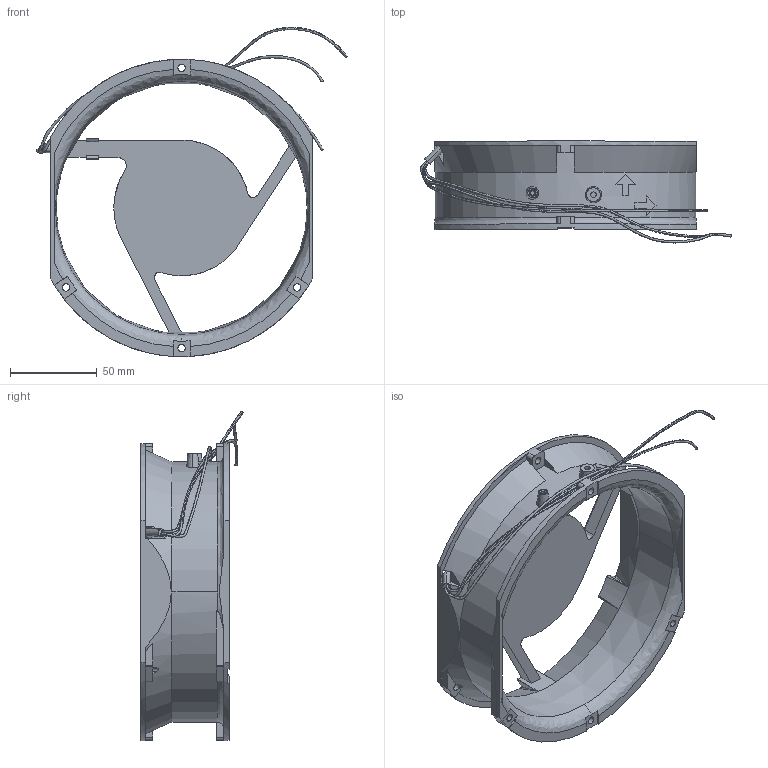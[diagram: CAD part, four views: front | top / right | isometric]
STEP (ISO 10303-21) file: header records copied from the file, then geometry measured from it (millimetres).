
FILE_DESCRIPTION (( 'STEP AP214' ), '1' );
FILE_NAME ('D17C_casing (p.c.).STEP', '2019-05-09T12:10:34', ( 'ced' ), ( 'Hewlett-Packard Company' ), 'SwSTEP 2.0', 'SolidWorks 2017', '' );
FILE_SCHEMA (( 'AUTOMOTIVE_DESIGN' ));
Length unit declared in the file: millimetre
Products named in the file (1): D17C_casing (p.c.)
Bounding box: 179.7 x 58.97 x 190.32 mm (x, y, z)
Volume: 132443.5 mm3; surface area: 84916.1 mm2
Topology: 4 solids, 4 shells, 267 faces, 770 edges, 486 vertices
Faces by surface type: plane 124, bspline 67, cylinder 56, cone 20
Entity records: 15804 total; most frequent: CARTESIAN_POINT 9865, ORIENTED_EDGE 1490, DIRECTION 849, EDGE_CURVE 745, VERTEX_POINT 486, B_SPLINE_CURVE_WITH_KNOTS 336, AXIS2_PLACEMENT_3D 295, EDGE_LOOP 291
